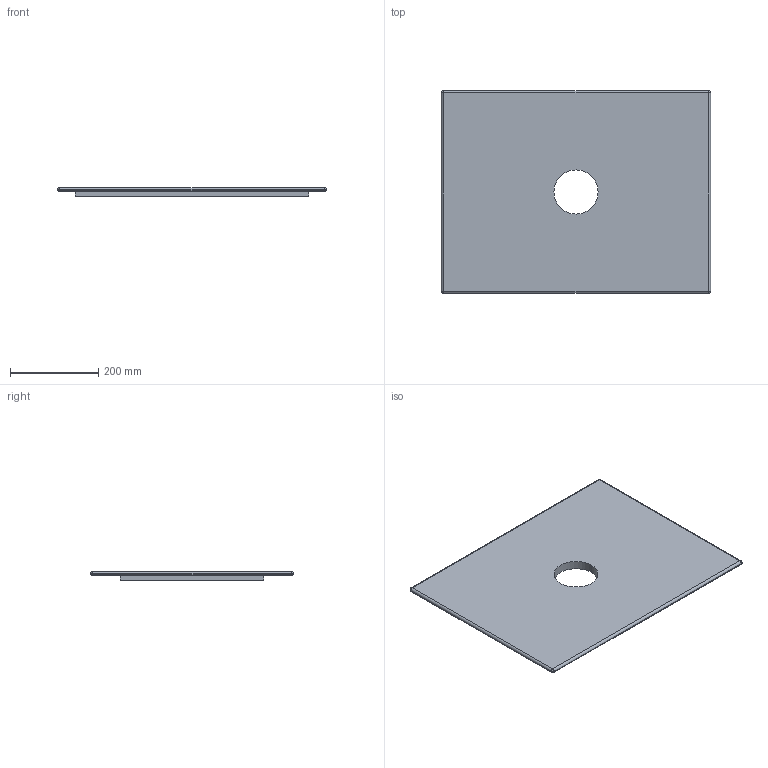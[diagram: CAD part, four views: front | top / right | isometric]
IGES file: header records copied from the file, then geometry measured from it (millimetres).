
Start section: START RECORD GO HERE.
Global section: file name: 3D ART 2050.igs; native system: DASSAULT SYSTEMES CATIA V5 R19 - www.3ds.com; preprocessor: CATIA Version 5 Release 19 SP 5 ; author: Luca; organization: DESKTOP-V7SON24; date: 20191030.173506; units: millimetre
Bounding box: 610 x 460 x 20 mm (x, y, z)
Surface area: 583191 mm2 (no closed solid volume)
Topology: 0 solids, 0 shells, 38 faces, 168 edges, 164 vertices
Faces by surface type: revolution 22, plane 16
